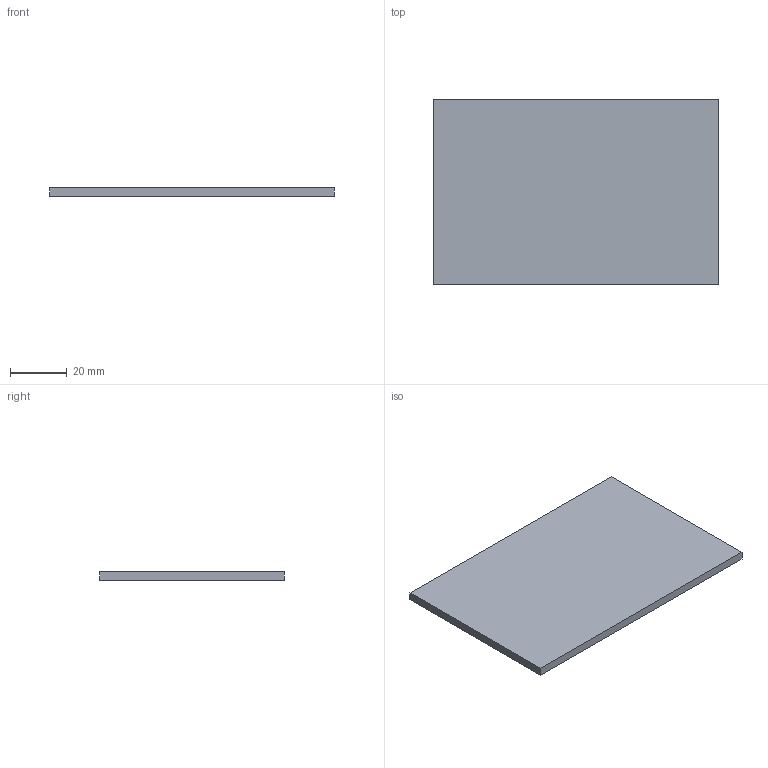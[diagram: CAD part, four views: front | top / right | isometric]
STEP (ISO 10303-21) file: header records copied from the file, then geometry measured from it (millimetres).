
FILE_DESCRIPTION(('Open CASCADE Model'),'2;1');
FILE_NAME('Open CASCADE Shape Model','2026-11-24T19:57:39',('Author'),( 'Open CASCADE'),'Open CASCADE STEP processor 7.8','Open CASCADE 7.8' ,'Unknown');
FILE_SCHEMA(('AUTOMOTIVE_DESIGN { 1 0 10303 214 1 1 1 1 }'));
Length unit declared in the file: millimetre
Products named in the file (1): Open CASCADE STEP translator 7.8 81
Bounding box: 100 x 65 x 3 mm (x, y, z)
Volume: 19500 mm3; surface area: 13990 mm2
Topology: 1 solids, 1 shells, 6 faces, 12 edges, 8 vertices
Faces by surface type: plane 6
Entity records: 322 total; most frequent: CARTESIAN_POINT 51, DIRECTION 50, LINE 36, VECTOR 36, ORIENTED_EDGE 24, PCURVE 24, DEFINITIONAL_REPRESENTATION 24, EDGE_CURVE 12
